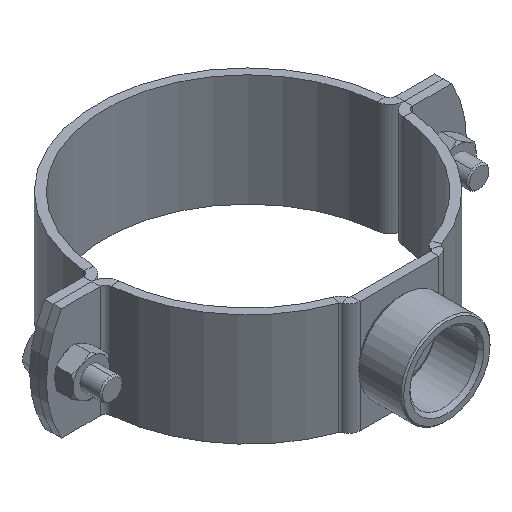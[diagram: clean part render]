
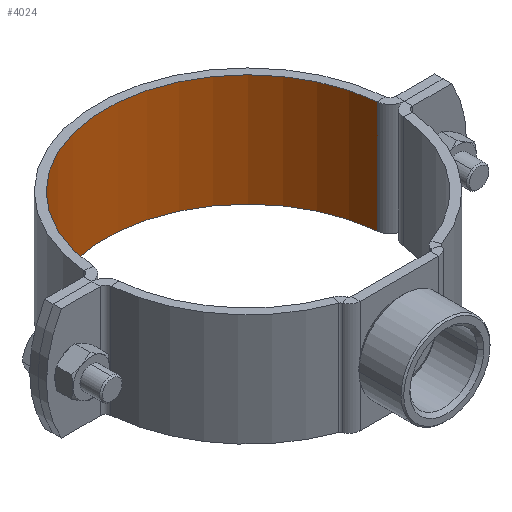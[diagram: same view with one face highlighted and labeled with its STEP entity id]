
A CAD part, isometric view. The second image highlights one B-rep face of the part: STEP entity #4024.
In plain terms, the highlighted cylindrical face has radius 51 mm (diameter 102 mm), a partial arc.
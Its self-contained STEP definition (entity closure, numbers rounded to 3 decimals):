
#160 = LINE ( 'NONE', #1716, #3397 ) ;
#398 = DIRECTION ( 'NONE',  ( 0., 0., 1. ) ) ;
#683 = VERTEX_POINT ( 'NONE', #4703 ) ;
#720 = CARTESIAN_POINT ( 'NONE',  ( 0., 0., 20. ) ) ;
#936 = CIRCLE ( 'NONE', #3710, 51. ) ;
#1001 = CIRCLE ( 'NONE', #1637, 51. ) ;
#1079 = ORIENTED_EDGE ( 'NONE', *, *, #2541, .T. ) ;
#1508 = CARTESIAN_POINT ( 'NONE',  ( 0., 0., 20. ) ) ;
#1545 = DIRECTION ( 'NONE',  ( 0., 0., -1. ) ) ;
#1637 = AXIS2_PLACEMENT_3D ( 'NONE', #1508, #3020, #4574 ) ;
#1716 = CARTESIAN_POINT ( 'NONE',  ( -50.796, -4.554, 20. ) ) ;
#1734 = VERTEX_POINT ( 'NONE', #3285 ) ;
#1777 = CARTESIAN_POINT ( 'NONE',  ( 50.796, -4.554, -20. ) ) ;
#1867 = EDGE_CURVE ( 'NONE', #1734, #683, #1001, .T. ) ;
#1945 = DIRECTION ( 'NONE',  ( 1., 0., 0. ) ) ;
#2059 = AXIS2_PLACEMENT_3D ( 'NONE', #720, #2254, #3764 ) ;
#2254 = DIRECTION ( 'NONE',  ( 0., 0., -1. ) ) ;
#2445 = VECTOR ( 'NONE', #1545, 1000. ) ;
#2541 = EDGE_CURVE ( 'NONE', #683, #3907, #3427, .T. ) ;
#2630 = FACE_OUTER_BOUND ( 'NONE', #3282, .T. ) ;
#2708 = VERTEX_POINT ( 'NONE', #2818 ) ;
#2818 = CARTESIAN_POINT ( 'NONE',  ( -50.796, -4.554, -20. ) ) ;
#2963 = ORIENTED_EDGE ( 'NONE', *, *, #4694, .F. ) ;
#3020 = DIRECTION ( 'NONE',  ( 0., 0., 1. ) ) ;
#3191 = EDGE_CURVE ( 'NONE', #2708, #3907, #936, .T. ) ;
#3217 = DIRECTION ( 'NONE',  ( 0., 0., -1. ) ) ;
#3282 = EDGE_LOOP ( 'NONE', ( #4906, #2963, #4512, #1079 ) ) ;
#3285 = CARTESIAN_POINT ( 'NONE',  ( -50.796, -4.554, 20. ) ) ;
#3397 = VECTOR ( 'NONE', #3217, 1000. ) ;
#3427 = LINE ( 'NONE', #4999, #2445 ) ;
#3710 = AXIS2_PLACEMENT_3D ( 'NONE', #3832, #398, #1945 ) ;
#3764 = DIRECTION ( 'NONE',  ( -1., 0., 0. ) ) ;
#3832 = CARTESIAN_POINT ( 'NONE',  ( 0., 0., -20. ) ) ;
#3907 = VERTEX_POINT ( 'NONE', #1777 ) ;
#4024 = ADVANCED_FACE ( 'NONE', ( #2630 ), #4150, .F. ) ;
#4150 = CYLINDRICAL_SURFACE ( 'NONE', #2059, 51. ) ;
#4512 = ORIENTED_EDGE ( 'NONE', *, *, #1867, .T. ) ;
#4574 = DIRECTION ( 'NONE',  ( 1., 0., 0. ) ) ;
#4694 = EDGE_CURVE ( 'NONE', #1734, #2708, #160, .T. ) ;
#4703 = CARTESIAN_POINT ( 'NONE',  ( 50.796, -4.554, 20. ) ) ;
#4906 = ORIENTED_EDGE ( 'NONE', *, *, #3191, .F. ) ;
#4999 = CARTESIAN_POINT ( 'NONE',  ( 50.796, -4.554, 20. ) ) ;
